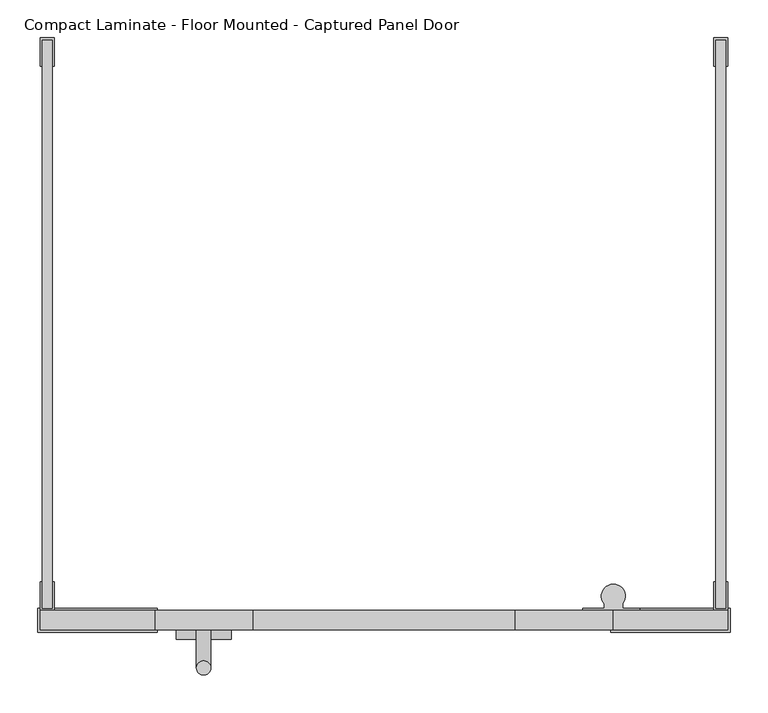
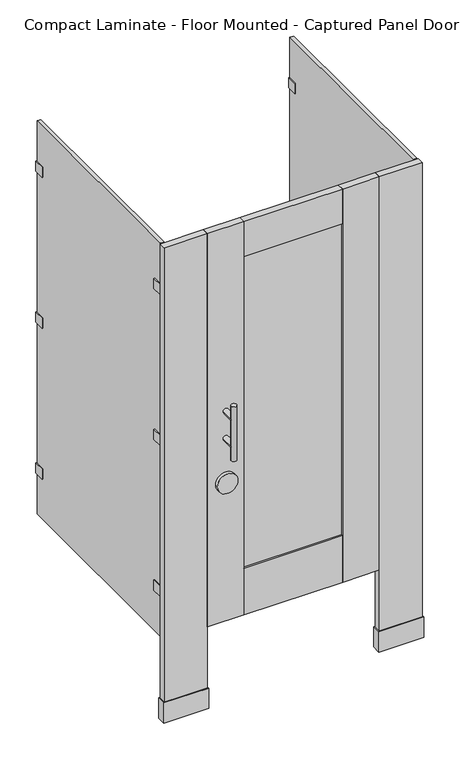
"""IFC4 building model written with IfcOpenShell, lengths in millimetres: proxy geometry, Toilet-Partition_Ironwood-Mfg_Compact-Laminate : Compact Laminate - Floor Mounted - Captured Panel Door."""

from ifc_helpers import new_model, si_unit, point, frame, frame_2d, origin, origin_with_axes, place, context, project, spatial, polyline, circle_curve, ellipse_curve, trimmed, segment, composite_curve, outline, extrude, source, transform, mapped, element, save
from ifc_brep_helpers import plane_surface, cylinder_surface, advanced_brep


def compact_laminate_floor_mounted_captured_panel_door_717636e4(model_context):
    return source(origin(), model_context, "Body", "SolidModel", [
        extrude(outline(polyline([(701.675, -758.825), (701.675, -790.575), (542.925, -790.575), (542.925, -758.825), (701.675, -758.825)])), origin_with_axes(), (0.0, 0.0, 1.0), 76.2),
        extrude(outline(polyline([(698.5, -762.0), (698.5, -787.4), (546.1, -787.4), (546.1, -762.0), (698.5, -762.0)])), origin_with_axes(), (0.0, 0.0, 1.0), 1778.0),
        extrude(outline(polyline([(-219.075, -758.825), (-60.325, -758.825), (-60.325, -790.575), (-219.075, -790.575), (-219.075, -758.825)])), origin_with_axes(), (0.0, 0.0, 1.0), 76.2),
        extrude(outline(polyline([(-215.9, -762.0), (-63.5, -762.0), (-63.5, -787.4), (-215.9, -787.4), (-215.9, -762.0)])), origin_with_axes(), (0.0, 0.0, 1.0), 1778.0),
        extrude(outline(polyline([(415.925, -781.05), (66.675, -781.05), (66.675, -768.35), (415.925, -768.35), (415.925, -781.05)])), frame((0.0, 0.0, 479.425), z_axis=(0.0, 0.0, 1.0), x_axis=(1.0, 0.0, 0.0)), (0.0, 0.0, 1.0), 1168.4),
        extrude(outline(polyline([(66.675, -762.0), (66.675, -787.4), (-63.5, -787.4), (-63.5, -762.0), (66.675, -762.0)])), frame((0.0, 0.0, 304.8), z_axis=(0.0, 0.0, 1.0), x_axis=(1.0, 0.0, 0.0)), (0.0, 0.0, 1.0), 1473.2),
        extrude(outline(polyline([(415.925, -762.0), (546.1, -762.0), (546.1, -787.4), (415.925, -787.4), (415.925, -762.0)])), frame((0.0, 0.0, 304.8), z_axis=(0.0, 0.0, 1.0), x_axis=(1.0, 0.0, 0.0)), (0.0, 0.0, 1.0), 1473.2),
        extrude(outline(polyline([(415.925, -762.0), (415.925, -787.4), (66.675, -787.4), (66.675, -762.0), (415.925, -762.0)])), frame((0.0, 0.0, 1647.825), z_axis=(0.0, 0.0, 1.0), x_axis=(1.0, 0.0, 0.0)), (0.0, 0.0, 1.0), 130.175),
        extrude(outline(polyline([(415.925, -762.0), (415.925, -787.4), (66.675, -787.4), (66.675, -762.0), (415.925, -762.0)])), frame((0.0, 0.0, 304.8), z_axis=(0.0, 0.0, 1.0), x_axis=(1.0, 0.0, 0.0)), (0.0, 0.0, 1.0), 174.625),
        extrude(outline(composite_curve([segment(trimmed(circle_curve(frame_2d((827.0875, 1.5875)), 36.5125), [point((827.0875, -34.925))], [point((827.0875, 38.1))], False, "CARTESIAN"), True, "CONTINUOUS"), segment(trimmed(circle_curve(frame_2d((827.0875, 1.5875)), 36.5125), [point((827.0875, 38.1))], [point((827.0875, -34.925))], False, "CARTESIAN"), True, "CONTINUOUS")], self_intersect=False)), frame((0.0, -800.1, 0.0), z_axis=(0.0, 1.0, 0.0), x_axis=(0.0, 0.0, 1.0)), (0.0, 0.0, 1.0), 12.7),
        advanced_brep(
        [(-7.9375, -787.4, 1092.2), (11.1125, -787.4, 1092.2), (-7.9375, -787.4, 990.6), (11.1125, -787.4, 990.6), (11.1125, -838.2, 1092.2), (-7.9375, -838.2, 1092.2), (11.1125, -838.2, 990.6), (-7.9375, -838.2, 990.6), (-7.9375, -838.2, 1143.0), (11.1125, -838.2, 1143.0), (-7.9375, -838.2, 939.8), (11.1125, -838.2, 939.8)],
        [
            (0, 1, circle_curve(frame((1.5875, -787.4, 1092.2), z_axis=(0.0, 1.0, 0.0), x_axis=(1.0, 0.0, 0.0)), 9.525)),
            (1, 0, circle_curve(frame((1.5875, -787.4, 1092.2), z_axis=(0.0, 1.0, 0.0), x_axis=(1.0, 0.0, 0.0)), 9.525)),
            (2, 3, circle_curve(frame((1.5875, -787.4, 990.6), z_axis=(0.0, 1.0, 0.0), x_axis=(1.0, 0.0, 0.0)), 9.525)),
            (3, 2, circle_curve(frame((1.5875, -787.4, 990.6), z_axis=(0.0, 1.0, 0.0), x_axis=(1.0, 0.0, 0.0)), 9.525)),
            (1, 4),
            (4, 5, ellipse_curve(frame((1.5875, -838.2, 1092.2), z_axis=(0.0, 0.7071067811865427, 0.7071067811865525), x_axis=(0.0, -0.7071067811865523, 0.7071067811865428)), 13.4703842, 9.525)),
            (5, 0),
            (5, 4, ellipse_curve(frame((1.5875, -838.2, 1092.2), z_axis=(0.0, 0.7071067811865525, -0.7071067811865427), x_axis=(0.0, -0.7071067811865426, -0.7071067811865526)), 13.4703842, 9.525)),
            (3, 6),
            (6, 7, ellipse_curve(frame((1.5875, -838.2, 990.6), z_axis=(0.0, 0.7071067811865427, 0.7071067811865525), x_axis=(0.0, -0.7071067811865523, 0.7071067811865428)), 13.4703842, 9.525)),
            (7, 2),
            (7, 6, ellipse_curve(frame((1.5875, -838.2, 990.6), z_axis=(0.0, 0.7071067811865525, -0.7071067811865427), x_axis=(0.0, -0.7071067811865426, -0.7071067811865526)), 13.4703842, 9.525)),
            (8, 9, circle_curve(frame((1.5875, -838.2, 1143.0), z_axis=(0.0, 0.0, 1.0), x_axis=(1.0, 0.0, 0.0)), 9.525)),
            (9, 8, circle_curve(frame((1.5875, -838.2, 1143.0), z_axis=(0.0, 0.0, 1.0), x_axis=(1.0, 0.0, 0.0)), 9.525)),
            (10, 11, circle_curve(frame((1.5875, -838.2, 939.8), z_axis=(0.0, 0.0, -1.0), x_axis=(1.0, 0.0, 0.0)), 9.525)),
            (11, 10, circle_curve(frame((1.5875, -838.2, 939.8), z_axis=(0.0, 0.0, -1.0), x_axis=(1.0, 0.0, 0.0)), 9.525)),
            (8, 5),
            (5, 7),
            (7, 10),
            (11, 6),
            (6, 4),
            (4, 9),
        ],
        [
            plane_surface(frame((11.1125, -787.4, 1092.2), z_axis=(0.0, 1.0, 0.0), x_axis=(0.0, 0.0, -1.0))),
            cylinder_surface(frame((1.5875, -787.4, 1092.2), z_axis=(0.0, -1.0, 0.0), x_axis=(1.0, 0.0, 0.0)), 9.525),
            cylinder_surface(frame((1.5875, -787.4, 990.6), z_axis=(0.0, -1.0, 0.0), x_axis=(1.0, 0.0, 0.0)), 9.525),
            plane_surface(frame((11.1125, -838.2, 1143.0), z_axis=(0.0, 0.0, 1.0), x_axis=(0.0, 1.0, 0.0))),
            plane_surface(frame((11.1125, -838.2, 939.8), z_axis=(0.0, 0.0, -1.0), x_axis=(0.0, -1.0, 0.0))),
            cylinder_surface(frame((1.5875, -838.2, 939.8), z_axis=(0.0, 0.0, 1.0), x_axis=(1.0, 0.0, 0.0)), 9.525),
        ],
        [
            (0, [[1, 2]]),
            (0, [[3, 4]]),
            (1, [[-2, 5, 6, 7]]),
            (1, [[-1, -7, 8, -5]]),
            (2, [[-4, 9, 10, 11]]),
            (2, [[-3, -11, 12, -9]]),
            (3, [[13, 14]]),
            (4, [[15, 16]]),
            (5, [[-13, 17, 18, 19, -16, 20, 21, 22]]),
            (5, [[-14, -22, -8, -17]]),
            (5, [[-15, -19, -10, -20]]),
            (5, [[-18, -6, -21, -12]]),
        ],
    ),
        extrude(outline(composite_curve([segment(polyline([(581.3737081, -762.0), (505.1737081, -762.0), (505.1737081, -758.825), (533.7487081, -758.825), (533.7487081, -752.9581331)]), True, "CONTINUOUS"), segment(trimmed(circle_curve(frame_2d((546.1, -742.8902139)), 15.9347861), [point((533.7487081, -752.9581331))], [point((558.4512919, -752.9581331))], False, "CARTESIAN"), True, "CONTINUOUS"), segment(polyline([(558.4512919, -752.9581331), (558.4512919, -758.825), (581.3737081, -758.825), (581.3737081, -762.0)]), True, "CONTINUOUS")], self_intersect=False)), frame((0.0, 0.0, 1574.8), z_axis=(0.0, 0.0, 1.0), x_axis=(1.0, 0.0, 0.0)), (0.0, 0.0, 1.0), 63.5),
        extrude(outline(composite_curve([segment(polyline([(581.3737081, -762.0), (505.1737081, -762.0), (505.1737081, -758.825), (533.7487081, -758.825), (533.7487081, -752.9581331)]), True, "CONTINUOUS"), segment(trimmed(circle_curve(frame_2d((546.1, -742.8902139)), 15.9347861), [point((533.7487081, -752.9581331))], [point((558.4512919, -752.9581331))], False, "CARTESIAN"), True, "CONTINUOUS"), segment(polyline([(558.4512919, -752.9581331), (558.4512919, -758.825), (581.3737081, -758.825), (581.3737081, -762.0)]), True, "CONTINUOUS")], self_intersect=False)), frame((0.0, 0.0, 1009.6500001), z_axis=(0.0, 0.0, 1.0), x_axis=(1.0, 0.0, 0.0)), (0.0, 0.0, 1.0), 63.5),
        extrude(outline(composite_curve([segment(polyline([(581.3737081, -762.0), (505.1737081, -762.0), (505.1737081, -758.825), (533.7487081, -758.825), (533.7487081, -752.9581331)]), True, "CONTINUOUS"), segment(trimmed(circle_curve(frame_2d((546.1, -742.8902139)), 15.9347861), [point((533.7487081, -752.9581331))], [point((558.4512919, -752.9581331))], False, "CARTESIAN"), True, "CONTINUOUS"), segment(polyline([(558.4512919, -752.9581331), (558.4512919, -758.825), (581.3737081, -758.825), (581.3737081, -762.0)]), True, "CONTINUOUS")], self_intersect=False)), frame((0.0, 0.0, 444.5), z_axis=(0.0, 0.0, 1.0), x_axis=(1.0, 0.0, 0.0)), (0.0, 0.0, 1.0), 63.5),
        extrude(outline(polyline([(682.498, -723.9), (682.498, -758.825), (695.198, -758.825), (695.198, -723.9), (698.373, -723.9), (698.373, -762.0), (679.323, -762.0), (679.323, -723.9), (682.498, -723.9)])), frame((0.0, 0.0, 1587.8188137), z_axis=(0.0, 0.0, 1.0), x_axis=(1.0, 0.0, 0.0)), (0.0, 0.0, 1.0), 38.1),
        extrude(outline(polyline([(682.498, -38.1), (679.323, -38.1), (679.323, 0.0), (698.373, 0.0), (698.373, -38.1), (695.198, -38.1), (695.198, -3.175), (682.498, -3.175), (682.498, -38.1)])), frame((0.0, 0.0, 1587.8188137), z_axis=(0.0, 0.0, 1.0), x_axis=(1.0, 0.0, 0.0)), (0.0, 0.0, 1.0), 38.1),
        extrude(outline(polyline([(682.498, -723.9), (682.498, -758.825), (695.198, -758.825), (695.198, -723.9), (698.373, -723.9), (698.373, -762.0), (679.323, -762.0), (679.323, -723.9), (682.498, -723.9)])), frame((0.0, 0.0, 1022.35), z_axis=(0.0, 0.0, 1.0), x_axis=(1.0, 0.0, 0.0)), (0.0, 0.0, 1.0), 38.1),
        extrude(outline(polyline([(682.498, -38.1), (679.323, -38.1), (679.323, 0.0), (698.373, 0.0), (698.373, -38.1), (695.198, -38.1), (695.198, -3.175), (682.498, -3.175), (682.498, -38.1)])), frame((0.0, 0.0, 1022.35), z_axis=(0.0, 0.0, 1.0), x_axis=(1.0, 0.0, 0.0)), (0.0, 0.0, 1.0), 38.1),
        extrude(outline(polyline([(682.498, -723.9), (682.498, -758.825), (695.198, -758.825), (695.198, -723.9), (698.373, -723.9), (698.373, -762.0), (679.323, -762.0), (679.323, -723.9), (682.498, -723.9)])), frame((0.0, 0.0, 457.2), z_axis=(0.0, 0.0, 1.0), x_axis=(1.0, 0.0, 0.0)), (0.0, 0.0, 1.0), 38.1),
        extrude(outline(polyline([(682.498, -38.1), (679.323, -38.1), (679.323, 0.0), (698.373, 0.0), (698.373, -38.1), (695.198, -38.1), (695.198, -3.175), (682.498, -3.175), (682.498, -38.1)])), frame((0.0, 0.0, 457.2), z_axis=(0.0, 0.0, 1.0), x_axis=(1.0, 0.0, 0.0)), (0.0, 0.0, 1.0), 38.1),
        extrude(outline(polyline([(-212.598, -723.9), (-212.598, -758.825), (-199.898, -758.825), (-199.898, -723.9), (-196.723, -723.9), (-196.723, -762.0), (-215.773, -762.0), (-215.773, -723.9), (-212.598, -723.9)])), frame((0.0, 0.0, 1587.8188137), z_axis=(0.0, 0.0, 1.0), x_axis=(1.0, 0.0, 0.0)), (0.0, 0.0, 1.0), 38.1),
        extrude(outline(polyline([(-212.598, -38.1), (-215.773, -38.1), (-215.773, 0.0), (-196.723, 0.0), (-196.723, -38.1), (-199.898, -38.1), (-199.898, -3.175), (-212.598, -3.175), (-212.598, -38.1)])), frame((0.0, 0.0, 1587.8188137), z_axis=(0.0, 0.0, 1.0), x_axis=(1.0, 0.0, 0.0)), (0.0, 0.0, 1.0), 38.1),
        extrude(outline(polyline([(-212.598, -723.9), (-212.598, -758.825), (-199.898, -758.825), (-199.898, -723.9), (-196.723, -723.9), (-196.723, -762.0), (-215.773, -762.0), (-215.773, -723.9), (-212.598, -723.9)])), frame((0.0, 0.0, 1022.35), z_axis=(0.0, 0.0, 1.0), x_axis=(1.0, 0.0, 0.0)), (0.0, 0.0, 1.0), 38.1),
        extrude(outline(polyline([(-212.598, -38.1), (-215.773, -38.1), (-215.773, 0.0), (-196.723, 0.0), (-196.723, -38.1), (-199.898, -38.1), (-199.898, -3.175), (-212.598, -3.175), (-212.598, -38.1)])), frame((0.0, 0.0, 1022.35), z_axis=(0.0, 0.0, 1.0), x_axis=(1.0, 0.0, 0.0)), (0.0, 0.0, 1.0), 38.1),
        extrude(outline(polyline([(-212.598, -723.9), (-212.598, -758.825), (-199.898, -758.825), (-199.898, -723.9), (-196.723, -723.9), (-196.723, -762.0), (-215.773, -762.0), (-215.773, -723.9), (-212.598, -723.9)])), frame((0.0, 0.0, 457.2), z_axis=(0.0, 0.0, 1.0), x_axis=(1.0, 0.0, 0.0)), (0.0, 0.0, 1.0), 38.1),
        extrude(outline(polyline([(-212.598, -38.1), (-215.773, -38.1), (-215.773, 0.0), (-196.723, 0.0), (-196.723, -38.1), (-199.898, -38.1), (-199.898, -3.175), (-212.598, -3.175), (-212.598, -38.1)])), frame((0.0, 0.0, 457.2), z_axis=(0.0, 0.0, 1.0), x_axis=(1.0, 0.0, 0.0)), (0.0, 0.0, 1.0), 38.1),
        extrude(outline(polyline([(-199.898, -3.175), (-199.898, -758.825), (-212.598, -758.825), (-212.598, -3.175), (-199.898, -3.175)])), frame((0.0, 0.0, 304.8), z_axis=(0.0, 0.0, 1.0), x_axis=(1.0, 0.0, 0.0)), (0.0, 0.0, 1.0), 1473.2),
        extrude(outline(polyline([(695.198, -3.175), (695.198, -758.825), (682.498, -758.825), (682.498, -3.175), (695.198, -3.175)])), frame((0.0, 0.0, 304.8), z_axis=(0.0, 0.0, 1.0), x_axis=(1.0, 0.0, 0.0)), (0.0, 0.0, 1.0), 1473.2),
    ])


if __name__ == "__main__":
    model = new_model("IFC4")
    model_context = context("Model", 3, world=origin())
    ifc_project = project(units=[si_unit("LENGTHUNIT", "METRE", prefix="MILLI")], contexts=[model_context])
    site = spatial("IfcSite", under=ifc_project)
    building = spatial("IfcBuilding", under=site)
    placement = place(None, origin())
    compact_laminate_floor_mounted_captured_panel_door_shape = compact_laminate_floor_mounted_captured_panel_door_717636e4(model_context)
    element("IfcBuildingElementProxy", 1, Name="Toilet-Partition_Ironwood-Mfg_Compact-Laminate : Compact Laminate - Floor Mounted - Captured Panel Door", ObjectType="Toilet-Partition_Ironwood-Mfg_Compact-Laminate : Compact Laminate - Floor Mounted - Captured Panel Door", at=placement, inside=building, context=model_context, shape_type="MappedRepresentation", body=[
        mapped(compact_laminate_floor_mounted_captured_panel_door_shape, transform((0.0, 0.0, 0.0), x_axis=(1.0, 0.0, 0.0), y_axis=(0.0, 1.0, 0.0), z_axis=(0.0, 0.0, 1.0))),
    ])
    save(model, "model.ifc")
